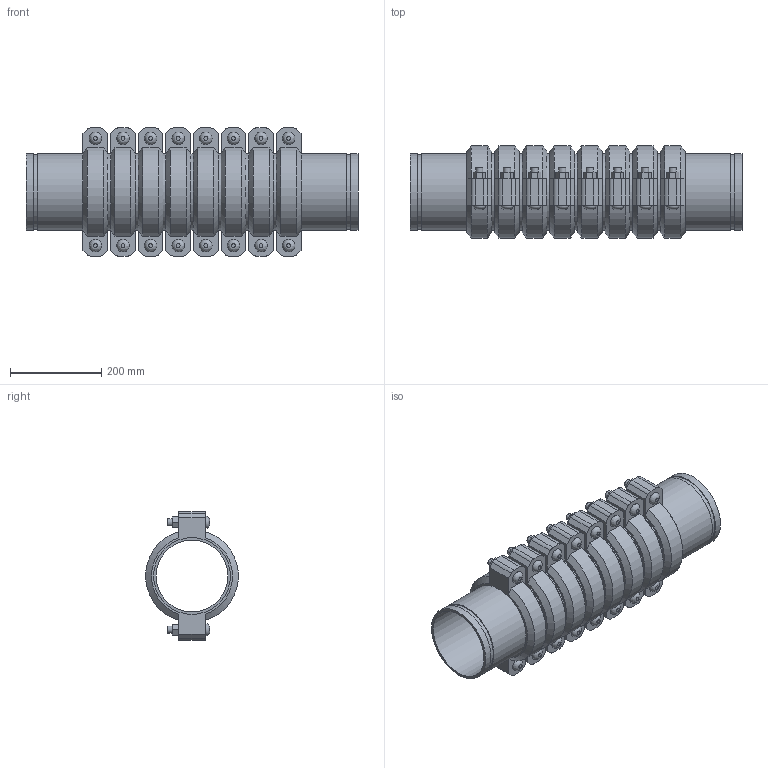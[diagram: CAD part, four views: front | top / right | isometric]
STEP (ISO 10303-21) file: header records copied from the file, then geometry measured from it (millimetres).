
FILE_DESCRIPTION(/* description */ ('VIC EXPANSION JOINT 8 COUPLINGS COMPRESSED STYLE 155 (OGS)','CAx-IF Rec.Pracs.---Representation and Presentation of Product Manufacturing Information (PMI)---4.0---2014-10-13'),/* implementation_level */ '2;1');
FILE_NAME(/* name */ 'C:\Users\kkamble\AppData\Roaming\Autodesk\ApplicationPlugins\Victaulic.Temp\A709\Victaulic_IPS_Expansion Joint_Compressed_8 Couplings_Style 155 (OGS)_6 (150).stp',/* time_stamp */ '2021-06-27T00:36:29+02:00',/* author */ ('kkamble'),/* organization */ ('Victaulic'),/* preprocessor_version */ 'ST-DEVELOPER v17.2',/* originating_system */ 'Autodesk Inventor 2019',/* authorisation */ '');
FILE_SCHEMA (('AP242_MANAGED_MODEL_BASED_3D_ENGINEERING_MIM_LF { 1 0 10303 442 1 1 4 }'));
Length unit declared in the file: inch
Products named in the file (4): 155-06.0; Nipple-06.0; Nipple-06.0_1; 075_8_Coup-06.0
Assembly tree (17 placements, depth 2):
  155-06.0
    Nipple-06.0  x2
    Nipple-06.0_1  x7
    075_8_Coup-06.0  x8
Bounding box: 727.2 x 202.46 x 281.18 mm (x, y, z)
Volume: 7867134.9 mm3; surface area: 1735195.4 mm2
Topology: 17 solids, 33 shells, 564 faces, 1334 edges, 936 vertices
Faces by surface type: plane 342, cylinder 174, cone 32, bspline 16
Full cylindrical faces by diameter (mm): 15.875 x32, 17.424 x16, 157.15 x9, 161.925 x8, 163.957 x18, 168.275 x43
Entity records: 2858 total; most frequent: CARTESIAN_POINT 501, DIRECTION 477, ORIENTED_EDGE 386, EDGE_CURVE 193, AXIS2_PLACEMENT_3D 192, VERTEX_POINT 138, EDGE_LOOP 107, LINE 93
